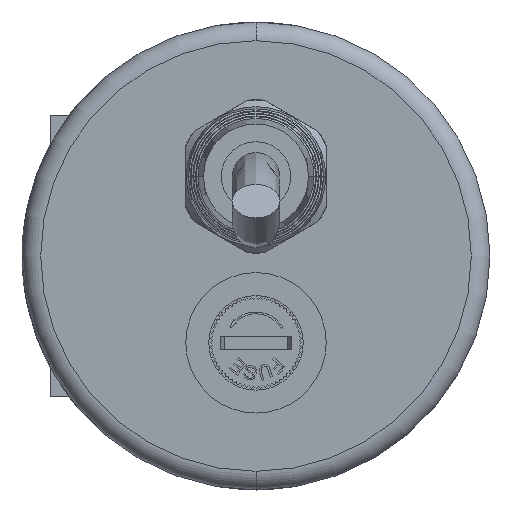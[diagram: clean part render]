
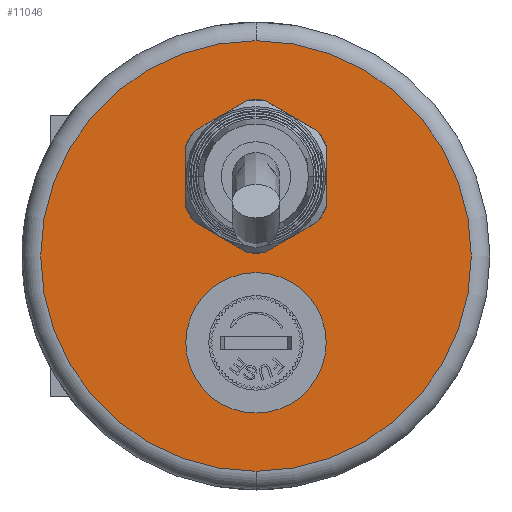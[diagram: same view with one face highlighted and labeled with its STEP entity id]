
A CAD part, left-side view. The second image highlights one B-rep face of the part: STEP entity #11046.
In plain terms, the highlighted planar face has unit normal (-1, 0, 0).
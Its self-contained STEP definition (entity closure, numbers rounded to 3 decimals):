
#403 = AXIS2_PLACEMENT_3D ( 'NONE', #2375, #10124, #21461 ) ;
#1043 = ORIENTED_EDGE ( 'NONE', *, *, #16693, .F. ) ;
#1114 = EDGE_CURVE ( 'NONE', #9797, #3158, #1826, .T. ) ;
#1142 = CARTESIAN_POINT ( 'NONE',  ( 0., 0., 12.75 ) ) ;
#1826 = CIRCLE ( 'NONE', #3798, 4.25 ) ;
#1943 = CARTESIAN_POINT ( 'NONE',  ( 0., 0., 0. ) ) ;
#2146 = EDGE_CURVE ( 'NONE', #18023, #24022, #21707, .T. ) ;
#2375 = CARTESIAN_POINT ( 'NONE',  ( 0., 0., 8.5 ) ) ;
#2793 = ORIENTED_EDGE ( 'NONE', *, *, #24407, .F. ) ;
#3088 = ORIENTED_EDGE ( 'NONE', *, *, #2146, .F. ) ;
#3158 = VERTEX_POINT ( 'NONE', #15108 ) ;
#3798 = AXIS2_PLACEMENT_3D ( 'NONE', #23154, #4173, #5722 ) ;
#4173 = DIRECTION ( 'NONE',  ( -1., 0., 0. ) ) ;
#4731 = ORIENTED_EDGE ( 'NONE', *, *, #20337, .F. ) ;
#4939 = DIRECTION ( 'NONE',  ( 0., 0., 1. ) ) ;
#4953 = CIRCLE ( 'NONE', #17953, 23. ) ;
#5650 = EDGE_CURVE ( 'NONE', #6203, #21025, #23564, .T. ) ;
#5722 = DIRECTION ( 'NONE',  ( 0., 0., 1. ) ) ;
#5850 = AXIS2_PLACEMENT_3D ( 'NONE', #18681, #19177, #22612 ) ;
#6079 = LINE ( 'NONE', #13843, #8340 ) ;
#6203 = VERTEX_POINT ( 'NONE', #24851 ) ;
#6364 = DIRECTION ( 'NONE',  ( 0., 1., 0. ) ) ;
#7164 = CARTESIAN_POINT ( 'NONE',  ( 0., -0.5, -8.5 ) ) ;
#7775 = VERTEX_POINT ( 'NONE', #18739 ) ;
#8340 = VECTOR ( 'NONE', #9777, 1000. ) ;
#9022 = DIRECTION ( 'NONE',  ( 0., 0., 1. ) ) ;
#9037 = CARTESIAN_POINT ( 'NONE',  ( 0., 0.5, -2.5 ) ) ;
#9076 = DIRECTION ( 'NONE',  ( 0., 0., 1. ) ) ;
#9239 = VECTOR ( 'NONE', #6364, 1000. ) ;
#9689 = DIRECTION ( 'NONE',  ( 0., 0., 1. ) ) ;
#9777 = DIRECTION ( 'NONE',  ( 0., -1., 0. ) ) ;
#9797 = VERTEX_POINT ( 'NONE', #1142 ) ;
#10124 = DIRECTION ( 'NONE',  ( -1., 0., 0. ) ) ;
#10204 = ORIENTED_EDGE ( 'NONE', *, *, #18666, .F. ) ;
#10993 = AXIS2_PLACEMENT_3D ( 'NONE', #16776, #20983, #9022 ) ;
#11046 = ADVANCED_FACE ( 'NONE', ( #20871, #13205, #18697 ), #17028, .T. ) ;
#12527 = ORIENTED_EDGE ( 'NONE', *, *, #5650, .T. ) ;
#12562 = CARTESIAN_POINT ( 'NONE',  ( 0., 0., 0. ) ) ;
#12716 = VERTEX_POINT ( 'NONE', #20374 ) ;
#12751 = CARTESIAN_POINT ( 'NONE',  ( 0., 0.5, -14.5 ) ) ;
#12819 = ORIENTED_EDGE ( 'NONE', *, *, #20501, .T. ) ;
#12885 = DIRECTION ( 'NONE',  ( -1., 0., 0. ) ) ;
#13205 = FACE_BOUND ( 'NONE', #16757, .T. ) ;
#13612 = ORIENTED_EDGE ( 'NONE', *, *, #1114, .F. ) ;
#13843 = CARTESIAN_POINT ( 'NONE',  ( 0., -0.5, -14.5 ) ) ;
#13876 = AXIS2_PLACEMENT_3D ( 'NONE', #7164, #12885, #9076 ) ;
#14277 = CIRCLE ( 'NONE', #13876, 6. ) ;
#15020 = CIRCLE ( 'NONE', #403, 4.25 ) ;
#15108 = CARTESIAN_POINT ( 'NONE',  ( 0., 0., 4.25 ) ) ;
#15338 = EDGE_LOOP ( 'NONE', ( #13612, #10204 ) ) ;
#15523 = EDGE_LOOP ( 'NONE', ( #12527, #12819 ) ) ;
#16042 = LINE ( 'NONE', #23797, #9239 ) ;
#16693 = EDGE_CURVE ( 'NONE', #7775, #18023, #16042, .T. ) ;
#16757 = EDGE_LOOP ( 'NONE', ( #4731, #2793, #3088, #1043 ) ) ;
#16776 = CARTESIAN_POINT ( 'NONE',  ( 0., 0., 0. ) ) ;
#17028 = PLANE ( 'NONE',  #10993 ) ;
#17953 = AXIS2_PLACEMENT_3D ( 'NONE', #1943, #19360, #9689 ) ;
#18023 = VERTEX_POINT ( 'NONE', #9037 ) ;
#18666 = EDGE_CURVE ( 'NONE', #3158, #9797, #15020, .T. ) ;
#18681 = CARTESIAN_POINT ( 'NONE',  ( 0., 0.5, -8.5 ) ) ;
#18697 = FACE_BOUND ( 'NONE', #15338, .T. ) ;
#18739 = CARTESIAN_POINT ( 'NONE',  ( 0., -0.5, -2.5 ) ) ;
#19177 = DIRECTION ( 'NONE',  ( -1., 0., 0. ) ) ;
#19360 = DIRECTION ( 'NONE',  ( -1., 0., 0. ) ) ;
#20337 = EDGE_CURVE ( 'NONE', #12716, #7775, #14277, .T. ) ;
#20374 = CARTESIAN_POINT ( 'NONE',  ( 0., -0.5, -14.5 ) ) ;
#20501 = EDGE_CURVE ( 'NONE', #21025, #6203, #4953, .T. ) ;
#20741 = AXIS2_PLACEMENT_3D ( 'NONE', #12562, #24264, #4939 ) ;
#20871 = FACE_OUTER_BOUND ( 'NONE', #15523, .T. ) ;
#20983 = DIRECTION ( 'NONE',  ( -1., 0., 0. ) ) ;
#21025 = VERTEX_POINT ( 'NONE', #24675 ) ;
#21461 = DIRECTION ( 'NONE',  ( 0., 0., 1. ) ) ;
#21707 = CIRCLE ( 'NONE', #5850, 6. ) ;
#22612 = DIRECTION ( 'NONE',  ( 0., 0., 1. ) ) ;
#23154 = CARTESIAN_POINT ( 'NONE',  ( 0., 0., 8.5 ) ) ;
#23564 = CIRCLE ( 'NONE', #20741, 23. ) ;
#23797 = CARTESIAN_POINT ( 'NONE',  ( 0., -0.5, -2.5 ) ) ;
#24022 = VERTEX_POINT ( 'NONE', #12751 ) ;
#24264 = DIRECTION ( 'NONE',  ( -1., 0., 0. ) ) ;
#24407 = EDGE_CURVE ( 'NONE', #24022, #12716, #6079, .T. ) ;
#24675 = CARTESIAN_POINT ( 'NONE',  ( 0., 0., -23. ) ) ;
#24851 = CARTESIAN_POINT ( 'NONE',  ( 0., 0., 23. ) ) ;
